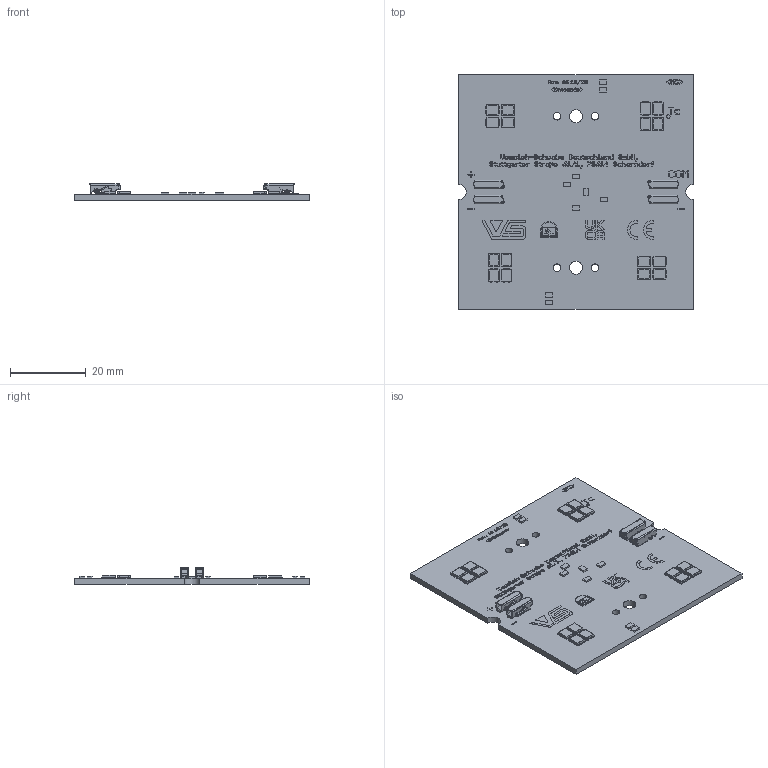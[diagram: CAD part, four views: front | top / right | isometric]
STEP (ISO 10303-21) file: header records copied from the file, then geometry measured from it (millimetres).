
FILE_DESCRIPTION(('Creo Elements/Direct Modeling STEP Export'),'2;1');
FILE_NAME('3D-Model_MCC SC 62x62x S16 yzz G2_White.stp','2026-07-24T14:00:45',(''),(''),'PTC Creo Elements/Direct Modeling STEP processor for AP214 (Solid Model)','PTC Creo Elements/Direct Modeling 19.0E 27-Jun-2016 (C) Parametric Technology GmbH','');
FILE_SCHEMA(('AUTOMOTIVE_DESIGN { 1 0 10303 214 1 1 1 1 }'));
Length unit declared in the file: millimetre
Products named in the file (60): MC-Logo.3; MC-Logo.2; MC-Logo.1; MC-Logo; Dioda_LED01.2; Dioda_LED01.1; Kone4512.prt; kone0101.prt.1; Kone548.prt.2; Kone548.prt.2.1; Kone1111.stp; Dioda_LED01.1.1.2.1; Dioda_LED01.1.1.2.1.2.1; Dioda_LED01.2.1; Dioda_LED01.1.1; Dioda_LED01.1.1.2.1.1; Dioda_LED01.1.1.2.1.2.1.1; Baza_WU-M-709; Dioda_LED01.2.2; Dioda_LED01.1.1.1; Dioda_LED01.1.1.2.1.1.1; Dioda_LED01.1.1.2.1.2.1.1.1; Dioda_LED01; otp_001.prt; otp_002.prt.1; otp_003.prt.1.1; otp_004.prt.2; otp_005.prt.2.1; otp_006.prt.3; otp_007.prt.4; otp_008.prt.4.1; otp_009.prt.5; otp_01010.stp; Dioda_LED01.2.2.1; Dioda_LED01.1.1.2; Dioda_LED01.1.1.2.1.2; p1; p1.1; 3D-Model_MCC_SC_62x62x_S16_yzz_G2_White.stp
Assembly tree (55 placements, depth 3):
  MC-Logo.3
    MC-Logo.3
  MC-Logo.2
    MC-Logo.2
  MC-Logo.1
    MC-Logo.1
  MC-Logo
    MC-Logo
  3D-Model_MCC_SC_62x62x_S16_yzz_G2_White.stp
    p1.1
    p1
    Dioda_LED01.1.1.2.1.2
      Dioda_LED01.1.1.2.1.2
    Dioda_LED01.1.1.2
      Dioda_LED01.1.1.2
    Dioda_LED01.2.2.1
      Dioda_LED01.2.2.1
    otp_01010.stp
      otp_009.prt.5
      otp_008.prt.4.1
      otp_007.prt.4
      otp_006.prt.3
      otp_005.prt.2.1
      otp_004.prt.2
      otp_003.prt.1.1
      otp_002.prt.1
      otp_001.prt
    Dioda_LED01
      Dioda_LED01
    Dioda_LED01.1.1.2.1.2.1.1.1
      Dioda_LED01.1.1.2.1.2.1.1.1
    Dioda_LED01.1.1.2.1.1.1
      Dioda_LED01.1.1.2.1.1.1
    Dioda_LED01.1.1.1
      Dioda_LED01.1.1.1
    Dioda_LED01.2.2
      Dioda_LED01.2.2
    Baza_WU-M-709
      Baza_WU-M-709
    Dioda_LED01.1.1.2.1.2.1.1
      Dioda_LED01.1.1.2.1.2.1.1
    Dioda_LED01.1.1.2.1.1
      Dioda_LED01.1.1.2.1.1
    Dioda_LED01.1.1
      Dioda_LED01.1.1
    Dioda_LED01.2.1
      Dioda_LED01.2.1
    Dioda_LED01.1.1.2.1.2.1
      Dioda_LED01.1.1.2.1.2.1
    Dioda_LED01.1.1.2.1
      Dioda_LED01.1.1.2.1
    Kone1111.stp
      Kone548.prt.2.1
      Kone548.prt.2
      kone0101.prt.1
      Kone4512.prt
    Dioda_LED01.1
      Dioda_LED01.1
    Dioda_LED01.2
      Dioda_LED01.2
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Bounding box: 62 x 62 x 4.3 mm (x, y, z)
Volume: 6263.4 mm3; surface area: 9190.6 mm2
Topology: 34 solids, 34 shells, 4493 faces, 12586 edges, 8339 vertices
Faces by surface type: plane 3291, cylinder 1202
Entity records: 178823 total; most frequent: CARTESIAN_POINT 25873, ORIENTED_EDGE 25172, DIRECTION 24305, EDGE_CURVE 12586, VECTOR 10117, LINE 10117, VERTEX_POINT 8339, AXIS2_PLACEMENT_3D 7094
